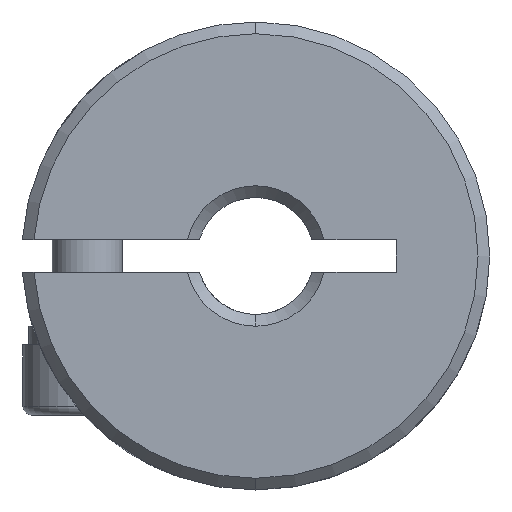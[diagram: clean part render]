
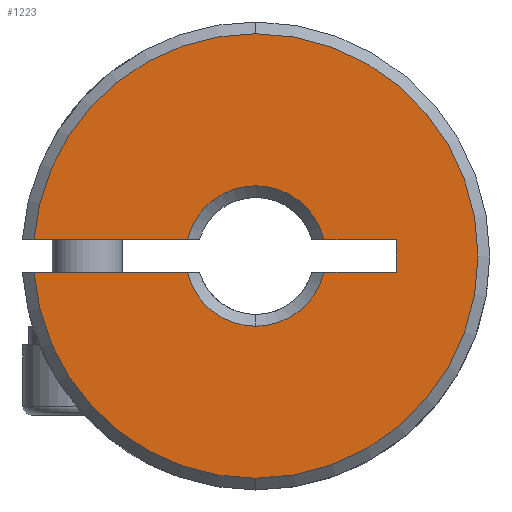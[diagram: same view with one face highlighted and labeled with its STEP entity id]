
A CAD part, front view. The second image highlights one B-rep face of the part: STEP entity #1223.
In plain terms, the highlighted planar face has unit normal (0, -1, 0).
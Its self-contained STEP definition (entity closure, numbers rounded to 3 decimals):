
#214 = DIRECTION ( 'NONE',  ( 0., 1., 0. ) ) ;
#244 = CARTESIAN_POINT ( 'NONE',  ( 0., 0.25, 0. ) ) ;
#304 = LINE ( 'NONE', #2457, #2823 ) ;
#316 = ORIENTED_EDGE ( 'NONE', *, *, #1837, .T. ) ;
#339 = ORIENTED_EDGE ( 'NONE', *, *, #1930, .F. ) ;
#364 = ORIENTED_EDGE ( 'NONE', *, *, #1373, .T. ) ;
#403 = DIRECTION ( 'NONE',  ( 0., 1., 0. ) ) ;
#441 = EDGE_LOOP ( 'NONE', ( #3145, #2986, #2213, #364, #339, #316, #740, #1186, #3689, #927, #3446 ) ) ;
#447 = CARTESIAN_POINT ( 'NONE',  ( 0., 0.25, 0. ) ) ;
#471 = CARTESIAN_POINT ( 'NONE',  ( 0., 0.25, 0. ) ) ;
#496 = DIRECTION ( 'NONE',  ( 0., 0., 1. ) ) ;
#542 = DIRECTION ( 'NONE',  ( 0., -1., 0. ) ) ;
#580 = EDGE_CURVE ( 'NONE', #1827, #3419, #3193, .T. ) ;
#612 = CIRCLE ( 'NONE', #2207, 9.5 ) ;
#640 = CARTESIAN_POINT ( 'NONE',  ( 6., 0.25, 0.7 ) ) ;
#645 = EDGE_CURVE ( 'NONE', #2767, #2432, #612, .T. ) ;
#651 = CARTESIAN_POINT ( 'NONE',  ( 0., 0.25, -3. ) ) ;
#729 = CIRCLE ( 'NONE', #2697, 9.5 ) ;
#740 = ORIENTED_EDGE ( 'NONE', *, *, #3202, .F. ) ;
#741 = LINE ( 'NONE', #3655, #2400 ) ;
#769 = DIRECTION ( 'NONE',  ( 0., 0., 1. ) ) ;
#780 = DIRECTION ( 'NONE',  ( 0., 0., 1. ) ) ;
#788 = CARTESIAN_POINT ( 'NONE',  ( 0., 0.25, 0. ) ) ;
#797 = CARTESIAN_POINT ( 'NONE',  ( 0., 0.25, 0. ) ) ;
#838 = CARTESIAN_POINT ( 'NONE',  ( 0., 0.25, -9.5 ) ) ;
#860 = VERTEX_POINT ( 'NONE', #3227 ) ;
#927 = ORIENTED_EDGE ( 'NONE', *, *, #1857, .T. ) ;
#951 = CIRCLE ( 'NONE', #1848, 3. ) ;
#959 = AXIS2_PLACEMENT_3D ( 'NONE', #3112, #214, #780 ) ;
#981 = DIRECTION ( 'NONE',  ( 0., 1., 0. ) ) ;
#1020 = DIRECTION ( 'NONE',  ( 0., 0., 1. ) ) ;
#1038 = LINE ( 'NONE', #640, #3545 ) ;
#1185 = VECTOR ( 'NONE', #1411, 1000. ) ;
#1186 = ORIENTED_EDGE ( 'NONE', *, *, #2987, .F. ) ;
#1223 = ADVANCED_FACE ( 'NONE', ( #2831 ), #2257, .F. ) ;
#1328 = EDGE_CURVE ( 'NONE', #1580, #2184, #3656, .T. ) ;
#1341 = DIRECTION ( 'NONE',  ( -1., 0., 0. ) ) ;
#1354 = DIRECTION ( 'NONE',  ( 1., 0., 0. ) ) ;
#1366 = CIRCLE ( 'NONE', #2547, 3. ) ;
#1373 = EDGE_CURVE ( 'NONE', #2432, #2029, #1595, .T. ) ;
#1394 = CARTESIAN_POINT ( 'NONE',  ( -9.474, 0.25, -0.7 ) ) ;
#1395 = DIRECTION ( 'NONE',  ( 0., 0., 1. ) ) ;
#1411 = DIRECTION ( 'NONE',  ( 1., 0., 0. ) ) ;
#1566 = VERTEX_POINT ( 'NONE', #1394 ) ;
#1580 = VERTEX_POINT ( 'NONE', #2864 ) ;
#1595 = CIRCLE ( 'NONE', #3731, 9.5 ) ;
#1827 = VERTEX_POINT ( 'NONE', #651 ) ;
#1837 = EDGE_CURVE ( 'NONE', #3676, #860, #1366, .T. ) ;
#1841 = CARTESIAN_POINT ( 'NONE',  ( -2.917, 0.25, -0.7 ) ) ;
#1848 = AXIS2_PLACEMENT_3D ( 'NONE', #3063, #981, #1020 ) ;
#1857 = EDGE_CURVE ( 'NONE', #1580, #1827, #951, .T. ) ;
#1930 = EDGE_CURVE ( 'NONE', #3676, #2029, #741, .T. ) ;
#1939 = CARTESIAN_POINT ( 'NONE',  ( 6., 0.25, 0.7 ) ) ;
#2007 = DIRECTION ( 'NONE',  ( 0., 0., 1. ) ) ;
#2017 = CARTESIAN_POINT ( 'NONE',  ( 6., 0.25, -0.7 ) ) ;
#2029 = VERTEX_POINT ( 'NONE', #3124 ) ;
#2044 = VERTEX_POINT ( 'NONE', #1939 ) ;
#2127 = VECTOR ( 'NONE', #1354, 1000. ) ;
#2129 = DIRECTION ( 'NONE',  ( 0., 0., 1. ) ) ;
#2133 = CARTESIAN_POINT ( 'NONE',  ( 0., 0.25, 9.5 ) ) ;
#2162 = DIRECTION ( 'NONE',  ( 0., -1., 0. ) ) ;
#2184 = VERTEX_POINT ( 'NONE', #2924 ) ;
#2207 = AXIS2_PLACEMENT_3D ( 'NONE', #788, #3710, #1395 ) ;
#2213 = ORIENTED_EDGE ( 'NONE', *, *, #645, .T. ) ;
#2257 = PLANE ( 'NONE',  #959 ) ;
#2400 = VECTOR ( 'NONE', #2817, 1000. ) ;
#2432 = VERTEX_POINT ( 'NONE', #2133 ) ;
#2457 = CARTESIAN_POINT ( 'NONE',  ( 6., 0.25, 0.7 ) ) ;
#2494 = DIRECTION ( 'NONE',  ( 0., 1., 0. ) ) ;
#2547 = AXIS2_PLACEMENT_3D ( 'NONE', #447, #403, #2129 ) ;
#2659 = DIRECTION ( 'NONE',  ( 0., 0., 1. ) ) ;
#2697 = AXIS2_PLACEMENT_3D ( 'NONE', #797, #2162, #496 ) ;
#2757 = AXIS2_PLACEMENT_3D ( 'NONE', #471, #2494, #769 ) ;
#2767 = VERTEX_POINT ( 'NONE', #838 ) ;
#2817 = DIRECTION ( 'NONE',  ( -1., 0., 0. ) ) ;
#2823 = VECTOR ( 'NONE', #1341, 1000. ) ;
#2831 = FACE_OUTER_BOUND ( 'NONE', #441, .T. ) ;
#2864 = CARTESIAN_POINT ( 'NONE',  ( 2.917, 0.25, -0.7 ) ) ;
#2924 = CARTESIAN_POINT ( 'NONE',  ( 6., 0.25, -0.7 ) ) ;
#2986 = ORIENTED_EDGE ( 'NONE', *, *, #3398, .T. ) ;
#2987 = EDGE_CURVE ( 'NONE', #2184, #2044, #1038, .T. ) ;
#3063 = CARTESIAN_POINT ( 'NONE',  ( 0., 0.25, 0. ) ) ;
#3112 = CARTESIAN_POINT ( 'NONE',  ( -50., 0.25, 12. ) ) ;
#3124 = CARTESIAN_POINT ( 'NONE',  ( -9.474, 0.25, 0.7 ) ) ;
#3145 = ORIENTED_EDGE ( 'NONE', *, *, #3477, .F. ) ;
#3193 = CIRCLE ( 'NONE', #2757, 3. ) ;
#3202 = EDGE_CURVE ( 'NONE', #2044, #860, #304, .T. ) ;
#3227 = CARTESIAN_POINT ( 'NONE',  ( 2.917, 0.25, 0.7 ) ) ;
#3398 = EDGE_CURVE ( 'NONE', #1566, #2767, #729, .T. ) ;
#3419 = VERTEX_POINT ( 'NONE', #1841 ) ;
#3432 = CARTESIAN_POINT ( 'NONE',  ( 6., 0.25, -0.7 ) ) ;
#3446 = ORIENTED_EDGE ( 'NONE', *, *, #580, .T. ) ;
#3477 = EDGE_CURVE ( 'NONE', #1566, #3419, #3690, .T. ) ;
#3545 = VECTOR ( 'NONE', #2659, 1000. ) ;
#3570 = CARTESIAN_POINT ( 'NONE',  ( -2.917, 0.25, 0.7 ) ) ;
#3655 = CARTESIAN_POINT ( 'NONE',  ( 6., 0.25, 0.7 ) ) ;
#3656 = LINE ( 'NONE', #2017, #1185 ) ;
#3676 = VERTEX_POINT ( 'NONE', #3570 ) ;
#3689 = ORIENTED_EDGE ( 'NONE', *, *, #1328, .F. ) ;
#3690 = LINE ( 'NONE', #3432, #2127 ) ;
#3710 = DIRECTION ( 'NONE',  ( 0., -1., 0. ) ) ;
#3731 = AXIS2_PLACEMENT_3D ( 'NONE', #244, #542, #2007 ) ;
